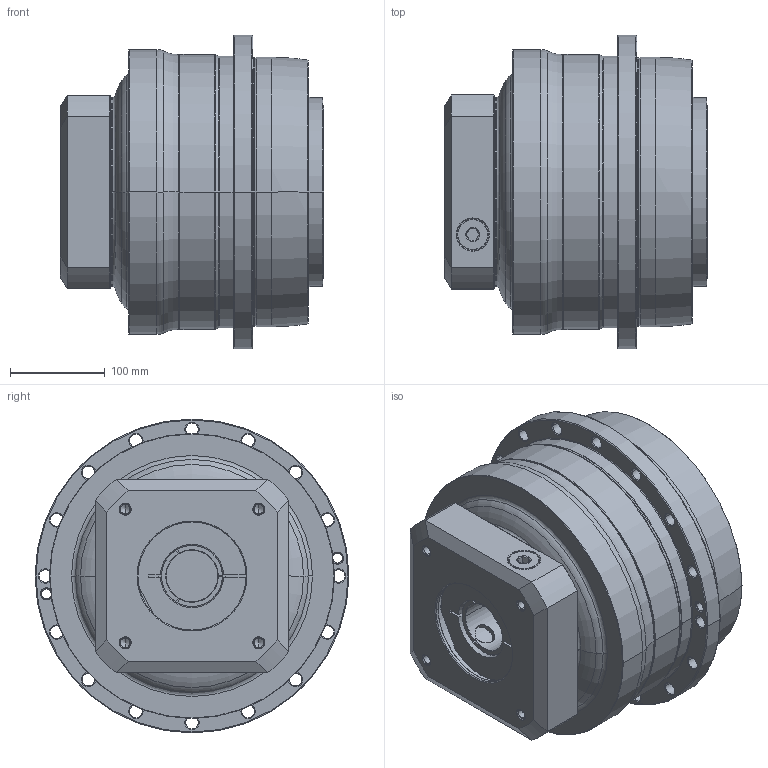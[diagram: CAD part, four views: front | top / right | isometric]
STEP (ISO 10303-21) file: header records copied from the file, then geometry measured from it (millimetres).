
FILE_DESCRIPTION((''),'2;1');
FILE_NAME('AH285_1ST_55-P0409C00101_ASM','2016-10-14T',('d00435'),(''),'PRO/ENGINEER BY PARAMETRIC TECHNOLOGY CORPORATION, 2008410','PRO/ENGINEER BY PARAMETRIC TECHNOLOGY CORPORATION, 2008410','');
FILE_SCHEMA(('CONFIG_CONTROL_DESIGN'));
Length unit declared in the file: millimetre
Products named in the file (8): P0278800003; P0359800003; P1318800401; P0409C00101; P0503C00016; P0912804201; 21711426021; AH285_1ST_55-P0409C00101_ASM
Assembly tree (7 placements, depth 2):
  AH285_1ST_55-P0409C00101_ASM
    P0278800003
    P0359800003
    P1318800401
    P0409C00101
    P0503C00016
    P0912804201
    21711426021
Bounding box: 278.5 x 332 x 332 mm (x, y, z)
Volume: 15447615.7 mm3; surface area: 1017993 mm2
Topology: 8 solids, 34 shells, 658 faces, 1527 edges, 923 vertices
Faces by surface type: cylinder 268, cone 192, plane 116, torus 68, bspline 14
Entity records: 23320 total; most frequent: CARTESIAN_POINT 7876, DIRECTION 3545, ORIENTED_EDGE 2858, AXIS2_PLACEMENT_3D 1507, EDGE_CURVE 1481, VERTEX_POINT 923, CIRCLE 836, EDGE_LOOP 792
